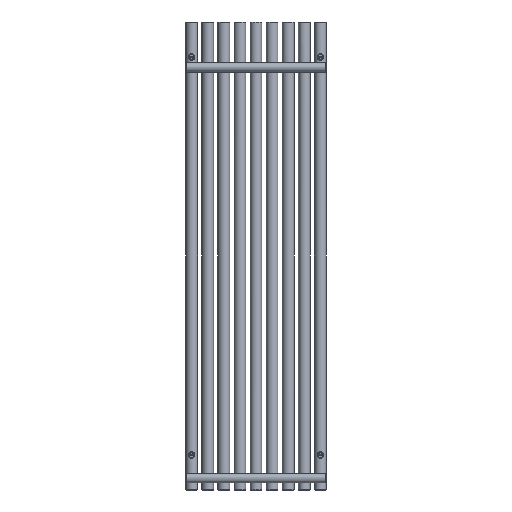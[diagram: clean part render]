
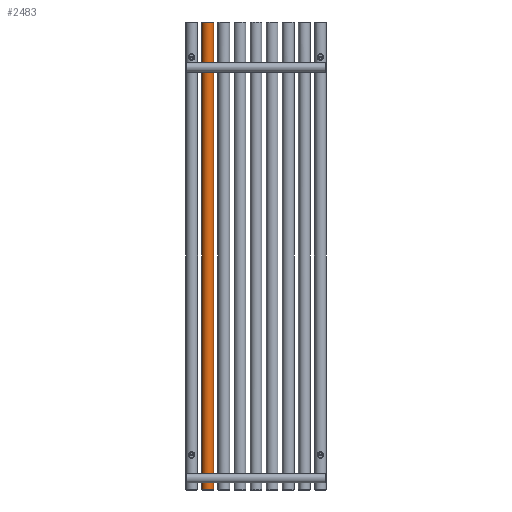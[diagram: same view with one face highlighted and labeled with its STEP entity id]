
A CAD part, front view. The second image highlights one B-rep face of the part: STEP entity #2483.
In plain terms, the highlighted cylindrical face has radius 20 mm (diameter 40 mm), a full revolution.
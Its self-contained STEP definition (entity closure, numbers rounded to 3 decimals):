
#187=FACE_BOUND('',#599,.T.);
#188=FACE_BOUND('',#600,.T.);
#230=LINE('',#4480,#308);
#308=VECTOR('',#3076,20.);
#386=CYLINDRICAL_SURFACE('',#2698,20.);
#423=FACE_OUTER_BOUND('',#598,.T.);
#598=EDGE_LOOP('',(#1735,#1736,#1737,#1738,#1739));
#599=EDGE_LOOP('',(#1740));
#600=EDGE_LOOP('',(#1741));
#810=B_SPLINE_CURVE_WITH_KNOTS('',3,(#4455,#4456,#4457,#4458,#4459,#4460,
#4461,#4462,#4463,#4464,#4465,#4466,#4467,#4468,#4469,#4470,#4471,#4472,
#4473,#4474),.UNSPECIFIED.,.T.,.F.,(4,1,1,1,1,1,1,1,1,1,1,1,1,1,1,1,1,4),
(-5.132,-4.765,-4.399,-3.91,
-3.788,-3.666,-3.421,-3.177,
-2.933,-2.444,-2.199,-1.955,
-1.711,-1.466,-1.1,-0.733,
-0.367,0.),.UNSPECIFIED.);
#811=B_SPLINE_CURVE_WITH_KNOTS('',3,(#4484,#4485,#4486,#4487,#4488,#4489,
#4490,#4491,#4492,#4493,#4494,#4495,#4496,#4497,#4498,#4499,#4500,#4501,
#4502,#4503,#4504,#4505,#4506,#4507,#4508,#4509,#4510,#4511,#4512,#4513,
#4514,#4515,#4516,#4517,#4518,#4519,#4520,#4521,#4522,#4523,#4524,#4525,
#4526,#4527,#4528,#4529,#4530,#4531,#4532,#4533,#4534,#4535,#4536,#4537,
#4538,#4539,#4540,#4541,#4542,#4543,#4544,#4545,#4546,#4547,#4548,#4549,
#4550,#4551,#4552,#4553),.UNSPECIFIED.,.T.,.F.,(4,3,3,3,3,3,3,3,3,3,3,3,
3,3,3,3,3,3,3,3,3,3,3,4),(-5.132,-4.765,-4.582,
-4.399,-4.338,-4.277,-4.154,
-3.91,-3.788,-3.666,-3.421,
-3.177,-2.933,-2.444,-2.199,
-2.077,-1.955,-1.711,-1.466,
-1.283,-1.1,-0.733,-0.367,
0.),.UNSPECIFIED.);
#877=CIRCLE('',#2699,20.);
#878=CIRCLE('',#2700,20.);
#879=CIRCLE('',#2701,20.);
#1089=VERTEX_POINT('',#4453);
#1090=VERTEX_POINT('',#4476);
#1091=VERTEX_POINT('',#4477);
#1092=VERTEX_POINT('',#4479);
#1093=VERTEX_POINT('',#4483);
#1349=EDGE_CURVE('',#1089,#1089,#810,.T.);
#1350=EDGE_CURVE('',#1090,#1091,#877,.T.);
#1351=EDGE_CURVE('',#1090,#1092,#230,.T.);
#1352=EDGE_CURVE('',#1092,#1092,#878,.T.);
#1353=EDGE_CURVE('',#1091,#1090,#879,.T.);
#1354=EDGE_CURVE('',#1093,#1093,#811,.T.);
#1735=ORIENTED_EDGE('',*,*,#1350,.F.);
#1736=ORIENTED_EDGE('',*,*,#1351,.T.);
#1737=ORIENTED_EDGE('',*,*,#1352,.F.);
#1738=ORIENTED_EDGE('',*,*,#1351,.F.);
#1739=ORIENTED_EDGE('',*,*,#1353,.F.);
#1740=ORIENTED_EDGE('',*,*,#1354,.F.);
#1741=ORIENTED_EDGE('',*,*,#1349,.F.);
#2483=ADVANCED_FACE('',(#423,#187,#188),#386,.T.);
#2698=AXIS2_PLACEMENT_3D('',#4475,#3072,#3073);
#2699=AXIS2_PLACEMENT_3D('',#4478,#3074,#3075);
#2700=AXIS2_PLACEMENT_3D('',#4481,#3077,#3078);
#2701=AXIS2_PLACEMENT_3D('',#4482,#3079,#3080);
#3072=DIRECTION('center_axis',(0.,0.,1.));
#3073=DIRECTION('ref_axis',(-1.,0.,0.));
#3074=DIRECTION('center_axis',(0.,0.,1.));
#3075=DIRECTION('ref_axis',(-1.,0.,0.));
#3076=DIRECTION('',(0.,0.,-1.));
#3077=DIRECTION('center_axis',(0.,0.,-1.));
#3078=DIRECTION('ref_axis',(-1.,0.,0.));
#3079=DIRECTION('center_axis',(0.,0.,1.));
#3080=DIRECTION('ref_axis',(-1.,0.,0.));
#4453=CARTESIAN_POINT('',(-385.,-20.,50.1));
#4455=CARTESIAN_POINT('Ctrl Pts',(-385.,-20.,50.1));
#4456=CARTESIAN_POINT('Ctrl Pts',(-386.611,-20.,50.1));
#4457=CARTESIAN_POINT('Ctrl Pts',(-389.831,-19.609,49.581));
#4458=CARTESIAN_POINT('Ctrl Pts',(-394.316,-17.862,46.748));
#4459=CARTESIAN_POINT('Ctrl Pts',(-396.001,-16.692,42.52));
#4460=CARTESIAN_POINT('Ctrl Pts',(-395.992,-16.71,39.163));
#4461=CARTESIAN_POINT('Ctrl Pts',(-395.668,-16.917,36.969));
#4462=CARTESIAN_POINT('Ctrl Pts',(-394.648,-17.555,34.431));
#4463=CARTESIAN_POINT('Ctrl Pts',(-392.535,-18.589,32.082));
#4464=CARTESIAN_POINT('Ctrl Pts',(-388.836,-19.82,30.087));
#4465=CARTESIAN_POINT('Ctrl Pts',(-384.419,-20.202,29.641));
#4466=CARTESIAN_POINT('Ctrl Pts',(-380.239,-19.503,30.58));
#4467=CARTESIAN_POINT('Ctrl Pts',(-377.466,-18.591,32.084));
#4468=CARTESIAN_POINT('Ctrl Pts',(-375.351,-17.553,34.428));
#4469=CARTESIAN_POINT('Ctrl Pts',(-373.927,-16.66,37.981));
#4470=CARTESIAN_POINT('Ctrl Pts',(-373.921,-16.659,42.599));
#4471=CARTESIAN_POINT('Ctrl Pts',(-376.137,-18.052,47.027));
#4472=CARTESIAN_POINT('Ctrl Pts',(-380.165,-19.6,49.585));
#4473=CARTESIAN_POINT('Ctrl Pts',(-383.389,-20.,50.1));
#4474=CARTESIAN_POINT('Ctrl Pts',(-385.,-20.,50.1));
#4475=CARTESIAN_POINT('Origin',(-385.,0.,0.));
#4476=CARTESIAN_POINT('',(-365.,0.,1598.));
#4477=CARTESIAN_POINT('',(-405.,0.,1598.));
#4478=CARTESIAN_POINT('Origin',(-385.,0.,1598.));
#4479=CARTESIAN_POINT('',(-365.,0.,2.));
#4480=CARTESIAN_POINT('',(-365.,0.,0.));
#4481=CARTESIAN_POINT('Origin',(-385.,0.,2.));
#4482=CARTESIAN_POINT('Origin',(-385.,0.,1598.));
#4483=CARTESIAN_POINT('',(-385.,-20.,1455.1));
#4484=CARTESIAN_POINT('Ctrl Pts',(-385.,-20.,1455.1));
#4485=CARTESIAN_POINT('Ctrl Pts',(-386.611,-20.,1455.1));
#4486=CARTESIAN_POINT('Ctrl Pts',(-388.224,-19.796,1454.84));
#4487=CARTESIAN_POINT('Ctrl Pts',(-389.701,-19.44,1454.287));
#4488=CARTESIAN_POINT('Ctrl Pts',(-390.439,-19.262,1454.01));
#4489=CARTESIAN_POINT('Ctrl Pts',(-391.144,-19.045,1453.66));
#4490=CARTESIAN_POINT('Ctrl Pts',(-391.794,-18.811,1453.231));
#4491=CARTESIAN_POINT('Ctrl Pts',(-392.443,-18.576,1452.803));
#4492=CARTESIAN_POINT('Ctrl Pts',(-393.038,-18.323,1452.295));
#4493=CARTESIAN_POINT('Ctrl Pts',(-393.559,-18.076,1451.713));
#4494=CARTESIAN_POINT('Ctrl Pts',(-393.733,-17.994,1451.519));
#4495=CARTESIAN_POINT('Ctrl Pts',(-393.899,-17.912,1451.317));
#4496=CARTESIAN_POINT('Ctrl Pts',(-394.056,-17.832,1451.107));
#4497=CARTESIAN_POINT('Ctrl Pts',(-394.213,-17.753,1450.897));
#4498=CARTESIAN_POINT('Ctrl Pts',(-394.361,-17.675,1450.679));
#4499=CARTESIAN_POINT('Ctrl Pts',(-394.5,-17.6,1450.455));
#4500=CARTESIAN_POINT('Ctrl Pts',(-394.778,-17.45,1450.005));
#4501=CARTESIAN_POINT('Ctrl Pts',(-395.019,-17.311,1449.527));
#4502=CARTESIAN_POINT('Ctrl Pts',(-395.221,-17.191,1449.028));
#4503=CARTESIAN_POINT('Ctrl Pts',(-395.624,-16.951,1448.028));
#4504=CARTESIAN_POINT('Ctrl Pts',(-395.87,-16.788,1446.94));
#4505=CARTESIAN_POINT('Ctrl Pts',(-395.952,-16.734,1445.833));
#4506=CARTESIAN_POINT('Ctrl Pts',(-395.993,-16.707,1445.28));
#4507=CARTESIAN_POINT('Ctrl Pts',(-395.992,-16.708,1444.722));
#4508=CARTESIAN_POINT('Ctrl Pts',(-395.952,-16.735,1444.168));
#4509=CARTESIAN_POINT('Ctrl Pts',(-395.911,-16.761,1443.615));
#4510=CARTESIAN_POINT('Ctrl Pts',(-395.829,-16.814,1443.066));
#4511=CARTESIAN_POINT('Ctrl Pts',(-395.707,-16.892,1442.531));
#4512=CARTESIAN_POINT('Ctrl Pts',(-395.463,-17.047,1441.46));
#4513=CARTESIAN_POINT('Ctrl Pts',(-395.056,-17.301,1440.446));
#4514=CARTESIAN_POINT('Ctrl Pts',(-394.5,-17.6,1439.547));
#4515=CARTESIAN_POINT('Ctrl Pts',(-393.944,-17.899,1438.648));
#4516=CARTESIAN_POINT('Ctrl Pts',(-393.239,-18.245,1437.865));
#4517=CARTESIAN_POINT('Ctrl Pts',(-392.425,-18.571,1437.224));
#4518=CARTESIAN_POINT('Ctrl Pts',(-391.61,-18.897,1436.583));
#4519=CARTESIAN_POINT('Ctrl Pts',(-390.685,-19.205,1436.085));
#4520=CARTESIAN_POINT('Ctrl Pts',(-389.701,-19.442,1435.715));
#4521=CARTESIAN_POINT('Ctrl Pts',(-387.731,-19.916,1434.976));
#4522=CARTESIAN_POINT('Ctrl Pts',(-385.523,-20.108,1434.753));
#4523=CARTESIAN_POINT('Ctrl Pts',(-383.393,-19.938,1434.992));
#4524=CARTESIAN_POINT('Ctrl Pts',(-382.329,-19.853,1435.111));
#4525=CARTESIAN_POINT('Ctrl Pts',(-381.284,-19.677,1435.345));
#4526=CARTESIAN_POINT('Ctrl Pts',(-380.299,-19.439,1435.714));
#4527=CARTESIAN_POINT('Ctrl Pts',(-379.807,-19.319,1435.898));
#4528=CARTESIAN_POINT('Ctrl Pts',(-379.33,-19.184,1436.115));
#4529=CARTESIAN_POINT('Ctrl Pts',(-378.874,-19.038,1436.367));
#4530=CARTESIAN_POINT('Ctrl Pts',(-378.418,-18.891,1436.618));
#4531=CARTESIAN_POINT('Ctrl Pts',(-377.983,-18.733,1436.904));
#4532=CARTESIAN_POINT('Ctrl Pts',(-377.576,-18.57,1437.224));
#4533=CARTESIAN_POINT('Ctrl Pts',(-376.761,-18.244,1437.865));
#4534=CARTESIAN_POINT('Ctrl Pts',(-376.056,-17.899,1438.647));
#4535=CARTESIAN_POINT('Ctrl Pts',(-375.5,-17.599,1439.545));
#4536=CARTESIAN_POINT('Ctrl Pts',(-374.943,-17.3,1440.444));
#4537=CARTESIAN_POINT('Ctrl Pts',(-374.536,-17.046,1441.459));
#4538=CARTESIAN_POINT('Ctrl Pts',(-374.292,-16.891,1442.53));
#4539=CARTESIAN_POINT('Ctrl Pts',(-374.109,-16.775,1443.332));
#4540=CARTESIAN_POINT('Ctrl Pts',(-374.018,-16.714,1444.166));
#4541=CARTESIAN_POINT('Ctrl Pts',(-374.017,-16.714,1445.));
#4542=CARTESIAN_POINT('Ctrl Pts',(-374.017,-16.714,1445.834));
#4543=CARTESIAN_POINT('Ctrl Pts',(-374.108,-16.774,1446.668));
#4544=CARTESIAN_POINT('Ctrl Pts',(-374.292,-16.891,1447.47));
#4545=CARTESIAN_POINT('Ctrl Pts',(-374.66,-17.125,1449.075));
#4546=CARTESIAN_POINT('Ctrl Pts',(-375.399,-17.587,1450.551));
#4547=CARTESIAN_POINT('Ctrl Pts',(-376.44,-18.077,1451.715));
#4548=CARTESIAN_POINT('Ctrl Pts',(-377.481,-18.566,1452.879));
#4549=CARTESIAN_POINT('Ctrl Pts',(-378.823,-19.084,1453.732));
#4550=CARTESIAN_POINT('Ctrl Pts',(-380.3,-19.442,1454.287));
#4551=CARTESIAN_POINT('Ctrl Pts',(-381.777,-19.801,1454.842));
#4552=CARTESIAN_POINT('Ctrl Pts',(-383.389,-20.,1455.1));
#4553=CARTESIAN_POINT('Ctrl Pts',(-385.,-20.,1455.1));
